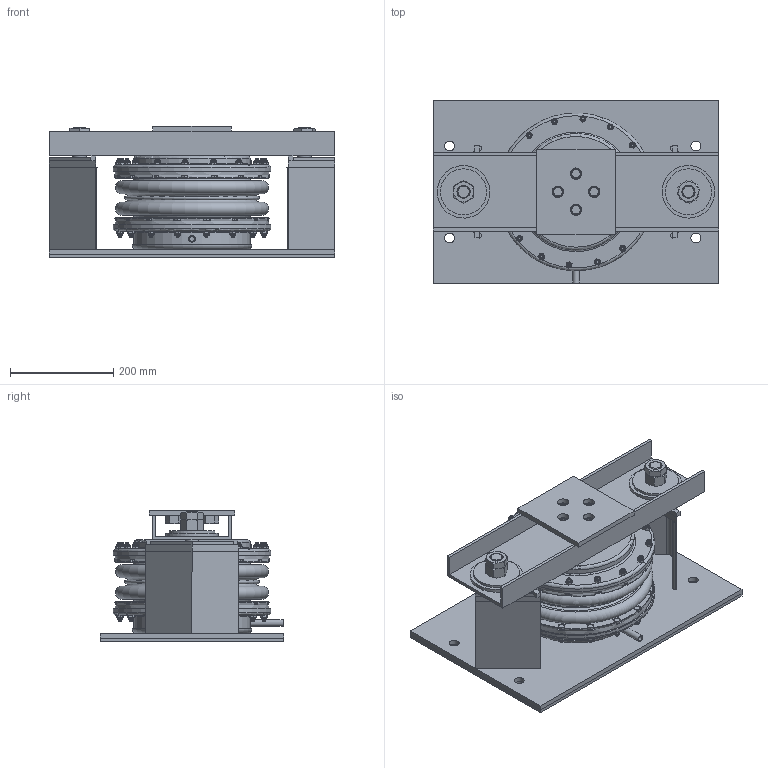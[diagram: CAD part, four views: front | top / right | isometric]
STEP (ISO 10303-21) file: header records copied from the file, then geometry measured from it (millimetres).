
FILE_DESCRIPTION(/* description */ (''),/* implementation_level */ '2;1');
FILE_NAME(/* name */ 'C:\001_Work\Designs\SLR MT\SLR-MT-8.stp',/* time_stamp */ '2016-06-12T12:20:42-04:00',/* author */ ('rramoutar'),/* organization */ (''),/* preprocessor_version */ 'ST-DEVELOPER v15.6',/* originating_system */ 'Autodesk Inventor 2015',/* authorisation */ '');
FILE_SCHEMA (('CONFIG_CONTROL_DESIGN'));
Products named in the file (1): A-25226 SLR-MT 8 ASSY
Bounding box: 552.45 x 355.6 x 254 mm (x, y, z)
Volume: 8182724.7 mm3; surface area: 1775280.4 mm2
Topology: 2 solids, 12 shells, 2650 faces, 6868 edges, 4348 vertices
Faces by surface type: plane 1828, cone 357, cylinder 333, torus 132
Full cylindrical faces by diameter (mm): 6.35 x64, 6.604 x32, 6.747 x32, 7 x32, 7.144 x32, 9.525 x2, 9.6 x1, 10.592 x1, 11.112 x32, 12.6 x1, 13 x1, 16.307 x4, 19.05 x8, 20.93 x1, 22.225 x4, 25.4 x5, 25.959 x2, 26.67 x1, 26.987 x4, 34 x1, 38.1 x2, 40 x1, 44.45 x2, 50.8 x2, 82 x1, 88 x1, 88.9 x2, 101.6 x2, 136 x1, 142 x1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
Entity records: 79372 total; most frequent: CARTESIAN_POINT 17707, DIRECTION 12592, ORIENTED_EDGE 12164, EDGE_CURVE 6082, AXIS2_PLACEMENT_3D 4914, VERTEX_POINT 4046, EDGE_LOOP 3350, LINE 2764
